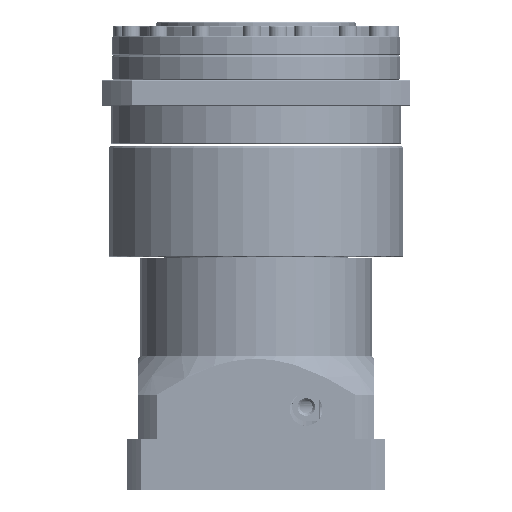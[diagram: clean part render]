
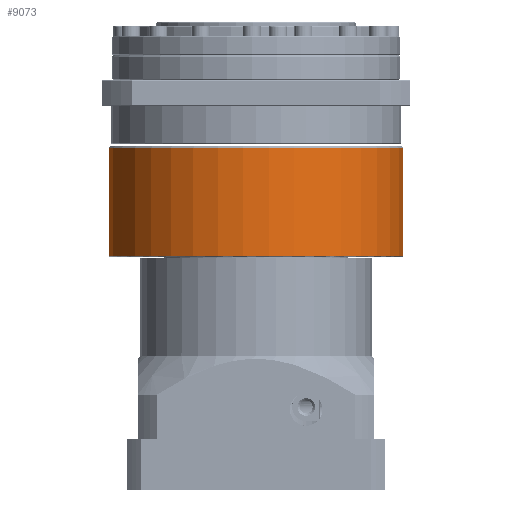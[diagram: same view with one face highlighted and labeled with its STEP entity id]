
A CAD part, front view. The second image highlights one B-rep face of the part: STEP entity #9073.
In plain terms, the highlighted cylindrical face has radius 57.5 mm (diameter 115 mm), a full revolution.
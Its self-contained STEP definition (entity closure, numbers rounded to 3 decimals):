
#9018 = EDGE_LOOP ( 'NONE', ( #9025 ) ) ;
#9025 = ORIENTED_EDGE ( 'NONE', *, *, #9101, .T. ) ;
#9073 = ADVANCED_FACE ( 'NONE', ( #20148, #20133 ), #20139, .T. ) ;
#9101 = EDGE_CURVE ( 'NONE', #33799, #33799, #20190, .T. ) ;
#9102 = EDGE_LOOP ( 'NONE', ( #9123 ) ) ;
#9123 = ORIENTED_EDGE ( 'NONE', *, *, #9135, .T. ) ;
#9135 = EDGE_CURVE ( 'NONE', #33771, #33771, #20282, .T. ) ;
#20128 = DIRECTION ( 'NONE',  ( 0.707, -0.707, 0. ) ) ;
#20129 = DIRECTION ( 'NONE',  ( 0., 0., 1. ) ) ;
#20132 = AXIS2_PLACEMENT_3D ( 'NONE', #20143, #20129, #20128 ) ;
#20133 = FACE_OUTER_BOUND ( 'NONE', #9102, .T. ) ;
#20139 = CYLINDRICAL_SURFACE ( 'NONE', #20132, 57.5 ) ;
#20143 = CARTESIAN_POINT ( 'NONE',  ( 0., 0., -0.45 ) ) ;
#20148 = FACE_OUTER_BOUND ( 'NONE', #9018, .T. ) ;
#20182 = DIRECTION ( 'NONE',  ( 0.707, -0.707, 0. ) ) ;
#20183 = DIRECTION ( 'NONE',  ( 0., 0., -1. ) ) ;
#20184 = CARTESIAN_POINT ( 'NONE',  ( 0., 0., -1.5 ) ) ;
#20185 = AXIS2_PLACEMENT_3D ( 'NONE', #20184, #20183, #20182 ) ;
#20190 = CIRCLE ( 'NONE', #20185, 57.5 ) ;
#20278 = DIRECTION ( 'NONE',  ( 0.707, -0.707, 0. ) ) ;
#20279 = DIRECTION ( 'NONE',  ( 0., 0., 1. ) ) ;
#20280 = CARTESIAN_POINT ( 'NONE',  ( 0., 0., -43.25 ) ) ;
#20281 = AXIS2_PLACEMENT_3D ( 'NONE', #20280, #20279, #20278 ) ;
#20282 = CIRCLE ( 'NONE', #20281, 57.5 ) ;
#33768 = CARTESIAN_POINT ( 'NONE',  ( 40.659, -40.659, -43.25 ) ) ;
#33771 = VERTEX_POINT ( 'NONE', #33768 ) ;
#33796 = CARTESIAN_POINT ( 'NONE',  ( 40.659, -40.659, -1.5 ) ) ;
#33799 = VERTEX_POINT ( 'NONE', #33796 ) ;
